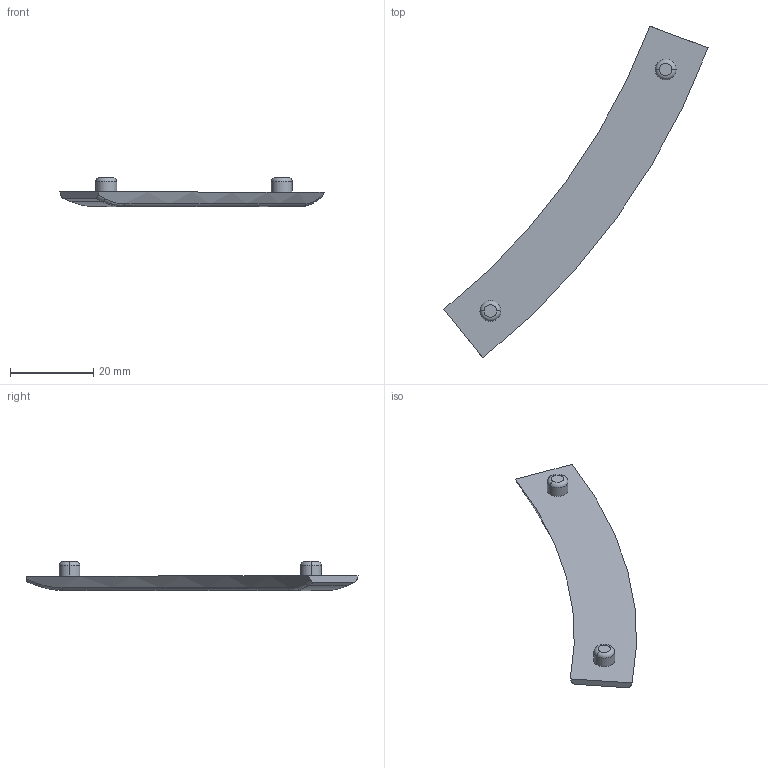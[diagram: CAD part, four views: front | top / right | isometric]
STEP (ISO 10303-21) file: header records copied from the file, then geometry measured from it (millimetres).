
FILE_DESCRIPTION(('CATIA V5 STEP Exchange'),'2;1');
FILE_NAME('D:\交接\张长江\21-Benz H6\光华荣昌转盘数据\H6 转盘\转盘用整椅数据 A9609109920\sample\H6 转盘夏季测试样件方案_20240617\样件数据\塑料件\SHT0017294-15 滑块.stp','2024-06-19T03:46:27+00:00',('none'),('none'),'CATIA Version 5 Release 20 GA (IN-10)','CATIA V5 STEP AP203 Edition 2','none');
FILE_SCHEMA(('AP203_CONFIGURATION_CONTROLLED_3D_DESIGN_OF_MECHANICAL_PARTS_AND_ASSEMBLIES_MIM_LF { 1 0 10303 403 2 1 2}'));
Length unit declared in the file: millimetre
Products named in the file (1): SHT0017294-15
Bounding box: 63.59 x 79.93 x 7 mm (x, y, z)
Volume: 4248 mm3; surface area: 3215.2 mm2
Topology: 1 solids, 1 shells, 30 faces, 66 edges, 40 vertices
Faces by surface type: plane 8, bspline 8, cylinder 6, torus 6, cone 2
Entity records: 1137 total; most frequent: CARTESIAN_POINT 542, ORIENTED_EDGE 132, DIRECTION 78, EDGE_CURVE 66, AXIS2_PLACEMENT_3D 44, VERTEX_POINT 40, EDGE_LOOP 32, ADVANCED_FACE 30
